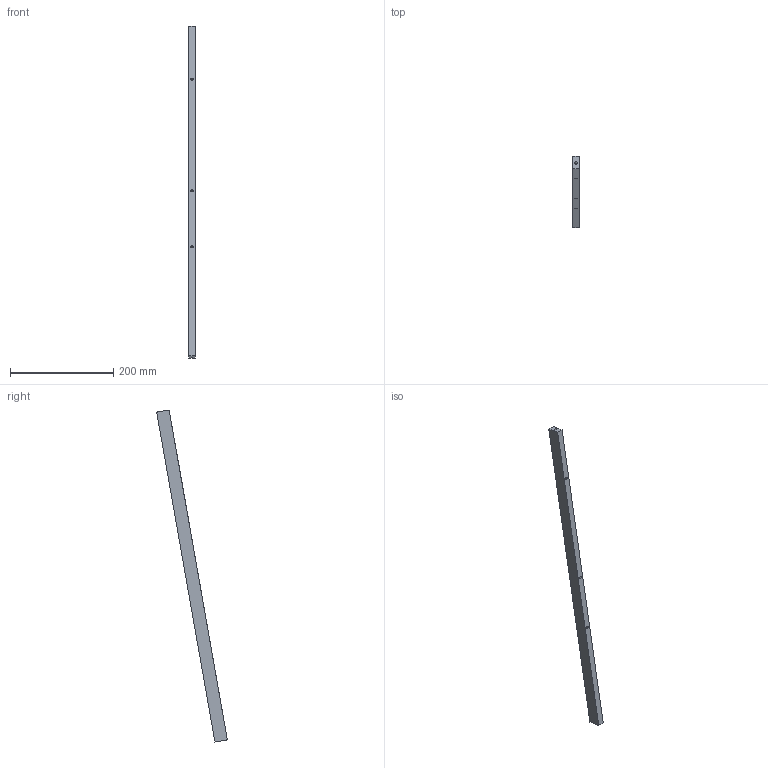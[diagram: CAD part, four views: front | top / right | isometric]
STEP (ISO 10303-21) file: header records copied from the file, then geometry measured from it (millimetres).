
FILE_DESCRIPTION(('golf model'),'2;1');
FILE_NAME('golf','',(''),(''),'golf_step_io','golf','');
FILE_SCHEMA(('AUTOMOTIVE_DESIGN { 1 0 10303 214 1 1 1 1 }'));
Length unit declared in the file: millimetre
Products named in the file (2): ASSEMBLY; atc_rack.spine
Assembly tree (1 placements, depth 2):
  ASSEMBLY
    atc_rack.spine
Bounding box: 12 x 136.83 x 643.39 mm (x, y, z)
Volume: 189635.1 mm3; surface area: 48990.4 mm2
Topology: 1 solids, 1 shells, 16 faces, 27 edges, 18 vertices
Faces by surface type: plane 11, cylinder 5
Full cylindrical faces by diameter (mm): 4.2 x3, 5 x2
Entity records: 390 total; most frequent: DIRECTION 68, CARTESIAN_POINT 58, ORIENTED_EDGE 44, AXIS2_PLACEMENT_3D 28, EDGE_LOOP 26, FACE_BOUND 23, EDGE_CURVE 22, VERTEX_POINT 18
